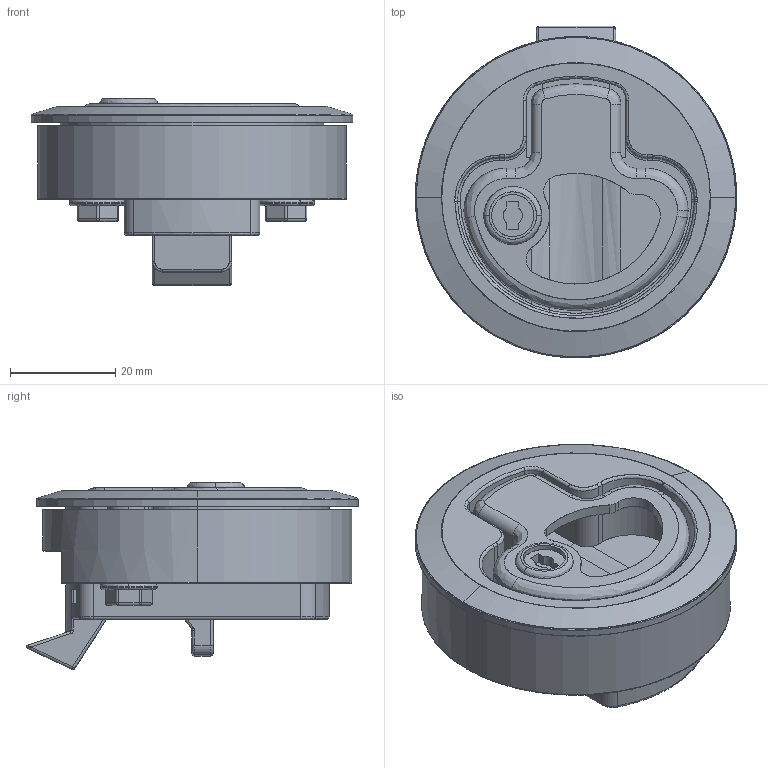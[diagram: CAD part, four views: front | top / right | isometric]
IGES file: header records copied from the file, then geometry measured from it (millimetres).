
Start section: SolidWorks IGES file using analytic representation for surfaces
Bounding box: 61 x 63 x 35.49 mm (x, y, z)
Surface area: 28755.6 mm2 (no closed solid volume)
Topology: 0 solids, 0 shells, 560 faces, 6177 edges, 6144 vertices
Faces by surface type: revolution 308, bspline 252
